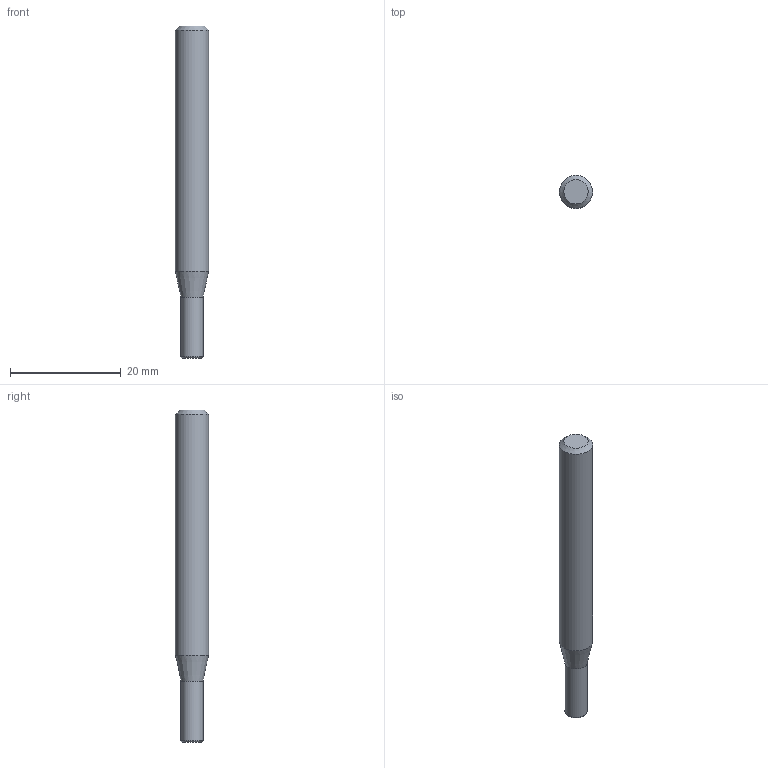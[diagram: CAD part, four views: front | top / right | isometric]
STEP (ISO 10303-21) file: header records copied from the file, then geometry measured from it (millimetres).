
FILE_DESCRIPTION((''),'2;1');
FILE_NAME('C:\Users\nsx150\AppData\Local\Temp\Mastercam 2021\0KY4AY0TVG\TEMP.step','2021-10-21T14:41:45',(''),(''),'STEP Write','Mastercam 2021 ... CNC Software, Inc.','');
FILE_SCHEMA(('AUTOMOTIVE_DESIGN'));
Length unit declared in the file: millimetre
Products named in the file (1): None
Bounding box: 6 x 6 x 60 mm (x, y, z)
Volume: 1478.5 mm3; surface area: 1103.4 mm2
Topology: 2 solids, 2 shells, 9 faces, 12 edges, 7 vertices
Faces by surface type: plane 4, cylinder 2, cone 2, torus 1
Full cylindrical faces by diameter (mm): 4 x1, 6 x1
Entity records: 211 total; most frequent: DIRECTION 36, CARTESIAN_POINT 25, AXIS2_PLACEMENT_3D 18, ORIENTED_EDGE 14, EDGE_LOOP 14, STYLED_ITEM 12, ADVANCED_FACE 9, FACE_BOUND 8
